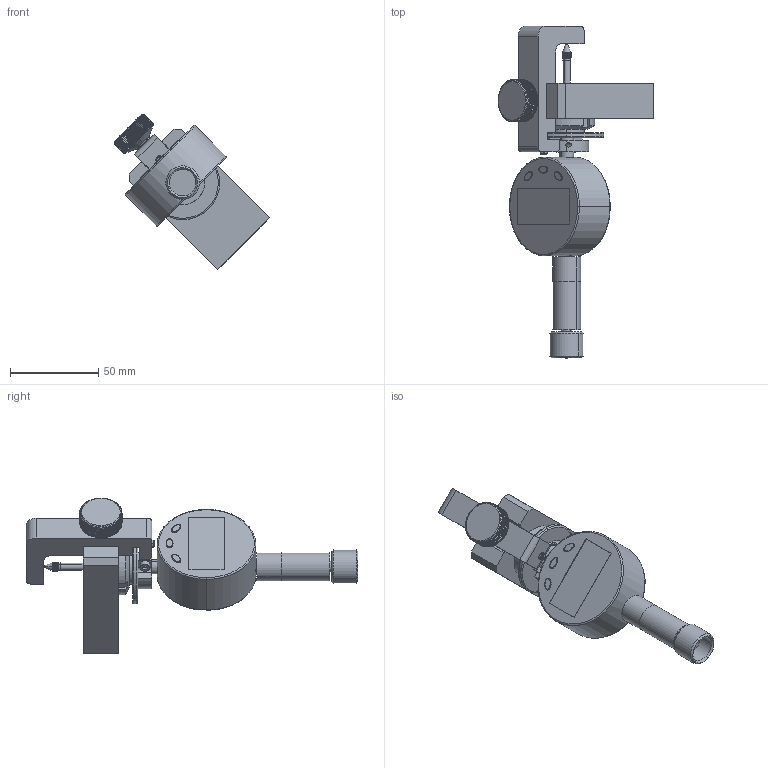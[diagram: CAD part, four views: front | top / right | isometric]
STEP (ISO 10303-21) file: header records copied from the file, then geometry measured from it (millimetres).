
FILE_DESCRIPTION(('CATIA V5 STEP Exchange'),'2;1');
FILE_NAME('C:\Dokumente und Einstellungen\Administrator\Desktop\deep-tech-eng\Kontakte\D\DTE\VORLAGEN\Downloadinfos_von_DTE\Messuhr_fest_gerade\S0002-3-Spitze_ZSB_MESSUHR_FEST+MASTER_BUGEL_AN_MESSUHR_AllCATPart.stp','2010-11-07T10:53:35+00:00',('none'),('none'),'CATIA Version 5 Release 19 GA (IN-10)','CATIA V5 STEP AP203','none');
FILE_SCHEMA(('CONFIG_CONTROL_DESIGN'));
Length unit declared in the file: millimetre
Products named in the file (1): S0002-3-Spitze_ZSB_MESSUHR_FEST+MASTER_BUGEL_AN_MESSUHR_AllCATPart
Bounding box: 88.39 x 188.5 x 88.39 mm (x, y, z)
Volume: 167431.1 mm3; surface area: 51835.4 mm2
Topology: 21 solids, 22 shells, 942 faces, 2414 edges, 1526 vertices
Faces by surface type: plane 537, cylinder 296, cone 78, torus 12, sphere 7, extrusion 6, bspline 6
Entity records: 28087 total; most frequent: CARTESIAN_POINT 7616, ORIENTED_EDGE 4800, DIRECTION 3158, EDGE_CURVE 2400, VERTEX_POINT 1523, AXIS2_PLACEMENT_3D 1339, VECTOR 1188, LINE 1182
